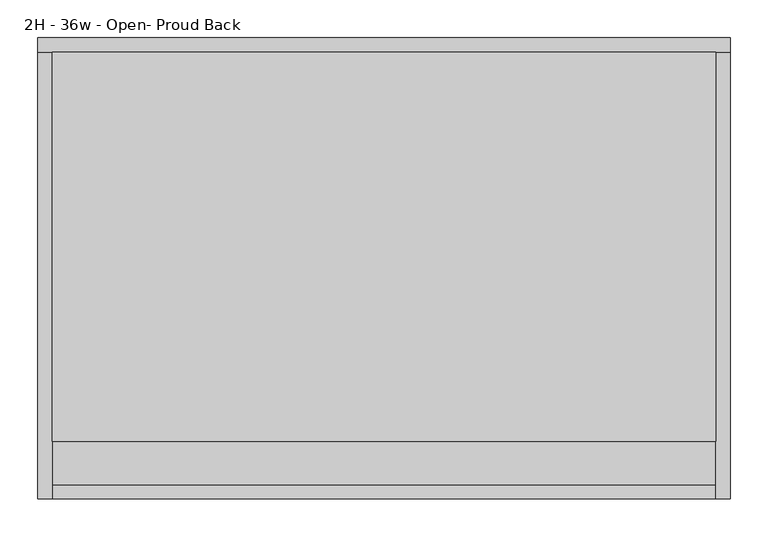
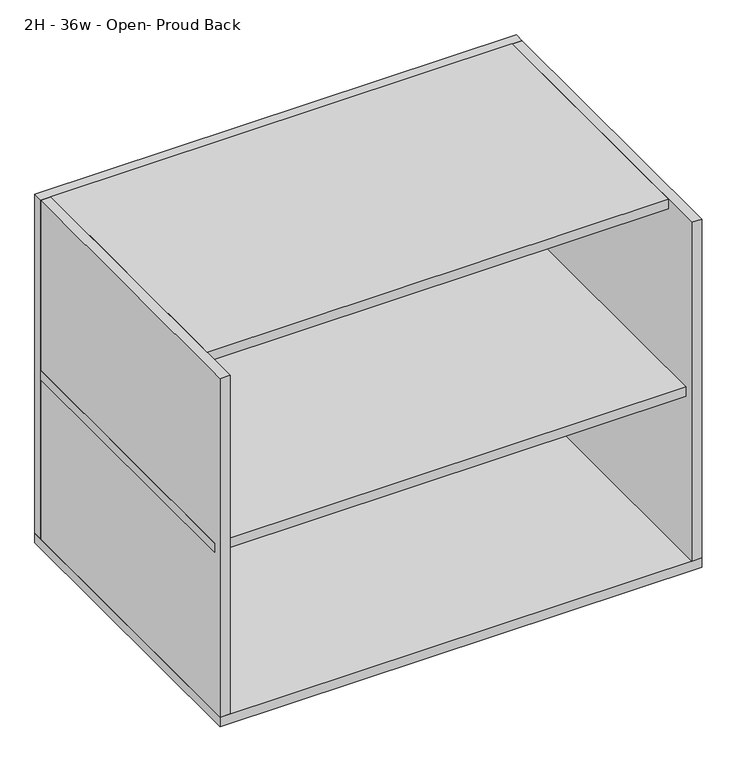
"""IFC4 building model written with IfcOpenShell, lengths in millimetres: furniture geometry, Haworth_BeHold_Modular_AttachedCredenza_StorageEnd : 2H - 36w - Open- Proud Back."""

from ifc_helpers import new_model, si_unit, point, frame, frame_2d, origin, origin_with_axes, place, context, project, spatial, polyline, circle_curve, trimmed, segment, composite_curve, outline, extrude, source, transform, mapped, element, save


def furniture_2h_36w_open_proud_back_ebc20219(model_context):
    return source(origin(), model_context, "Body", "SweptSolid", [
        extrude(outline(polyline([(-614.0591553, -6.35), (-595.0091553, -6.35), (-595.0091553, -577.85), (-614.0591553, -577.85), (-614.0591553, -6.35)])), frame((0.0, 0.0, 350.8375), z_axis=(0.0, 0.0, 1.0), x_axis=(1.0, 0.0, 0.0)), (0.0, 0.0, 1.0), 19.05),
        extrude(outline(polyline([(281.2908447, -6.35), (281.2908447, -577.85), (-595.0091553, -577.85), (-595.0091553, -6.35), (281.2908447, -6.35)])), frame((0.0, 0.0, 350.8375), z_axis=(0.0, 0.0, 1.0), x_axis=(1.0, 0.0, 0.0)), (0.0, 0.0, 1.0), 19.05),
        extrude(outline(polyline([(-614.0591553, -6.35), (-595.0091553, -6.35), (-595.0091553, -577.85), (-614.0591553, -577.85), (-614.0591553, -6.35)])), frame((0.0, 0.0, 350.8375), z_axis=(0.0, 0.0, 1.0), x_axis=(1.0, 0.0, 0.0)), (0.0, 0.0, 1.0), 19.05),
        extrude(outline(polyline([(281.2908447, -6.35), (281.2908447, -520.7), (-595.0091553, -520.7), (-595.0091553, -6.35), (281.2908447, -6.35)])), frame((0.0, 0.0, 692.15), z_axis=(0.0, 0.0, 1.0), x_axis=(1.0, 0.0, 0.0)), (0.0, 0.0, 1.0), 19.05),
        extrude(outline(polyline([(300.3408447, -6.35), (-614.0591553, -6.35), (-614.0591553, 12.7), (300.3408447, 12.7), (300.3408447, -6.35)])), frame((0.0, 0.0, 31.75), z_axis=(0.0, 0.0, 1.0), x_axis=(1.0, 0.0, 0.0)), (0.0, 0.0, 1.0), 679.45),
        extrude(outline(polyline([(300.3408447, -6.35), (300.3408447, -596.9), (281.2908447, -596.9), (281.2908447, -6.35), (300.3408447, -6.35)])), frame((0.0, 0.0, 31.75), z_axis=(0.0, 0.0, 1.0), x_axis=(1.0, 0.0, 0.0)), (0.0, 0.0, 1.0), 679.45),
        extrude(outline(polyline([(-614.0591553, -596.9), (-614.0591553, -6.35), (-595.0091553, -6.35), (-595.0091553, -596.9), (-614.0591553, -596.9)])), frame((0.0, 0.0, 31.75), z_axis=(0.0, 0.0, 1.0), x_axis=(1.0, 0.0, 0.0)), (0.0, 0.0, 1.0), 679.45),
        extrude(outline(polyline([(300.3408447, 12.7), (300.3408447, -596.9), (-614.0591553, -596.9), (-614.0591553, 12.7), (300.3408447, 12.7)])), frame((0.0, 0.0, 12.7), z_axis=(0.0, 0.0, 1.0), x_axis=(1.0, 0.0, 0.0)), (0.0, 0.0, 1.0), 19.05),
        extrude(outline(composite_curve([segment(polyline([(281.2908447, -12.7), (281.2908447, -57.1999969)]), True, "CONTINUOUS"), segment(trimmed(circle_curve(frame_2d((274.9408447, -57.1999969)), 6.35), [point((281.2908447, -57.1999969))], [point((274.9408447, -63.5499969))], False, "CARTESIAN"), True, "CONTINUOUS"), segment(polyline([(274.9408447, -63.5499969), (263.4907684, -63.5499969), (224.0908477, -24.1500763), (224.0908477, -12.7)]), True, "CONTINUOUS"), segment(trimmed(circle_curve(frame_2d((230.4408477, -12.7)), 6.35), [point((224.0908477, -12.7))], [point((230.4408477, -6.35))], False, "CARTESIAN"), True, "CONTINUOUS"), segment(polyline([(230.4408477, -6.35), (274.9408447, -6.35)]), True, "CONTINUOUS"), segment(trimmed(circle_curve(frame_2d((274.9408447, -12.7)), 6.35), [point((274.9408447, -6.35))], [point((281.2908447, -12.7))], False, "CARTESIAN"), True, "CONTINUOUS")], self_intersect=False)), origin_with_axes(), (0.0, 0.0, 1.0), 12.7),
        extrude(outline(composite_curve([segment(trimmed(circle_curve(frame_2d((274.9408447, -571.5)), 6.35), [point((281.2908447, -571.5))], [point((274.9408447, -577.85))], False, "CARTESIAN"), True, "CONTINUOUS"), segment(polyline([(274.9408447, -577.85), (230.4408477, -577.85)]), True, "CONTINUOUS"), segment(trimmed(circle_curve(frame_2d((230.4408477, -571.5)), 6.35), [point((230.4408477, -577.85))], [point((224.0908477, -571.5))], False, "CARTESIAN"), True, "CONTINUOUS"), segment(polyline([(224.0908477, -571.5), (224.0908477, -560.0499237), (263.4907684, -520.6500031), (274.9408447, -520.6500031)]), True, "CONTINUOUS"), segment(trimmed(circle_curve(frame_2d((274.9408447, -527.0000031)), 6.35), [point((274.9408447, -520.6500031))], [point((281.2908447, -527.0000031))], False, "CARTESIAN"), True, "CONTINUOUS"), segment(polyline([(281.2908447, -527.0000031), (281.2908447, -571.5)]), True, "CONTINUOUS")], self_intersect=False)), origin_with_axes(), (0.0, 0.0, 1.0), 12.7),
        extrude(outline(composite_curve([segment(trimmed(circle_curve(frame_2d((-588.6591553, -12.7)), 6.35), [point((-595.0091553, -12.7))], [point((-588.6591553, -6.35))], False, "CARTESIAN"), True, "CONTINUOUS"), segment(polyline([(-588.6591553, -6.35), (-544.1591584, -6.35)]), True, "CONTINUOUS"), segment(trimmed(circle_curve(frame_2d((-544.1591584, -12.7)), 6.35), [point((-544.1591584, -6.35))], [point((-537.8091584, -12.7))], False, "CARTESIAN"), True, "CONTINUOUS"), segment(polyline([(-537.8091584, -12.7), (-537.8091584, -24.1500763), (-577.209079, -63.5499969), (-588.6591553, -63.5499969)]), True, "CONTINUOUS"), segment(trimmed(circle_curve(frame_2d((-588.6591553, -57.1999969)), 6.35), [point((-588.6591553, -63.5499969))], [point((-595.0091553, -57.1999969))], False, "CARTESIAN"), True, "CONTINUOUS"), segment(polyline([(-595.0091553, -57.1999969), (-595.0091553, -12.7)]), True, "CONTINUOUS")], self_intersect=False)), origin_with_axes(), (0.0, 0.0, 1.0), 12.7),
        extrude(outline(composite_curve([segment(polyline([(-595.0091553, -571.5), (-595.0091553, -527.0000031)]), True, "CONTINUOUS"), segment(trimmed(circle_curve(frame_2d((-588.6591553, -527.0000031)), 6.35), [point((-595.0091553, -527.0000031))], [point((-588.6591553, -520.6500031))], False, "CARTESIAN"), True, "CONTINUOUS"), segment(polyline([(-588.6591553, -520.6500031), (-577.209079, -520.6500031), (-537.8091584, -560.0499237), (-537.8091584, -571.5)]), True, "CONTINUOUS"), segment(trimmed(circle_curve(frame_2d((-544.1591584, -571.5)), 6.35), [point((-537.8091584, -571.5))], [point((-544.1591584, -577.85))], False, "CARTESIAN"), True, "CONTINUOUS"), segment(polyline([(-544.1591584, -577.85), (-588.6591553, -577.85)]), True, "CONTINUOUS"), segment(trimmed(circle_curve(frame_2d((-588.6591553, -571.5)), 6.35), [point((-588.6591553, -577.85))], [point((-595.0091553, -571.5))], False, "CARTESIAN"), True, "CONTINUOUS")], self_intersect=False)), origin_with_axes(), (0.0, 0.0, 1.0), 12.7),
    ])


if __name__ == "__main__":
    model = new_model("IFC4")
    model_context = context("Model", 3, world=origin())
    ifc_project = project(units=[si_unit("LENGTHUNIT", "METRE", prefix="MILLI")], contexts=[model_context])
    site = spatial("IfcSite", under=ifc_project)
    building = spatial("IfcBuilding", under=site)
    placement = place(None, origin())
    furniture_2h_36w_open_proud_back_shape = furniture_2h_36w_open_proud_back_ebc20219(model_context)
    element("IfcFurniture", 1, ObjectType="Haworth_BeHold_Modular_AttachedCredenza_StorageEnd : 2H - 36w - Open- Proud Back", at=placement, inside=building, context=model_context, shape_type="MappedRepresentation", body=[
        mapped(furniture_2h_36w_open_proud_back_shape, transform((0.0, 0.0, 0.0), x_axis=(1.0, 0.0, 0.0), y_axis=(0.0, 1.0, 0.0), z_axis=(0.0, 0.0, 1.0))),
    ])
    save(model, "model.ifc")
